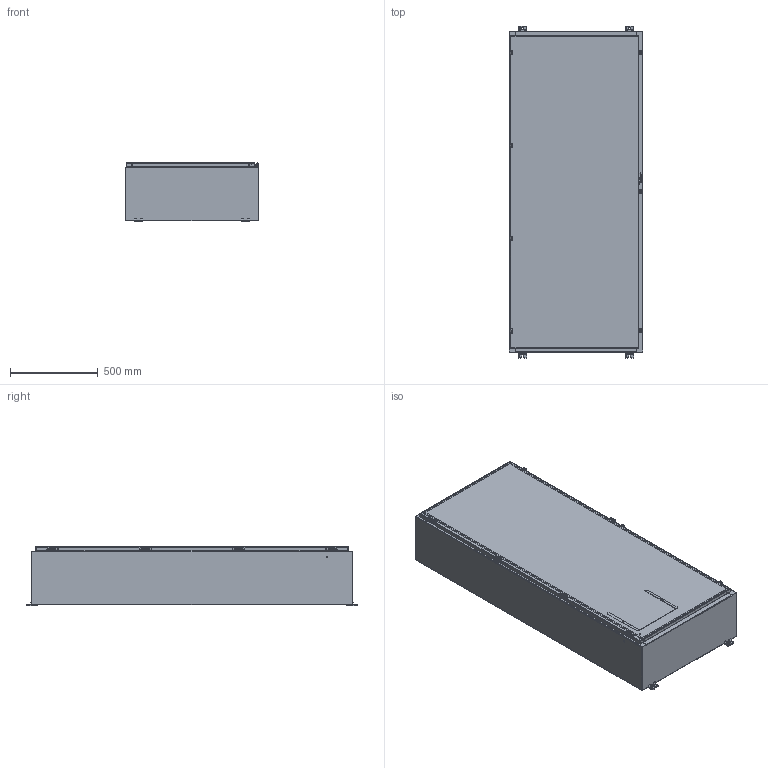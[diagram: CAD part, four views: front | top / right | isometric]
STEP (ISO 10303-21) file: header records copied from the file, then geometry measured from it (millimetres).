
FILE_DESCRIPTION((''),'2;1');
FILE_NAME('MODEL-309_ASM','2026-07-13T15:48:42',('joshi'),('SAGINAW CONTROL & ENGINEERING'),'CREO PARAMETRIC BY PTC INC, 2021284','CREO PARAMETRIC BY PTC INC, 2021284','');
FILE_SCHEMA(('AUTOMOTIVE_DESIGN { 1 0 10303 214 1 1 1 1 }'));
Length unit declared in the file: inch
Products named in the file (36): MODEL-309-BDY; MODEL-309-TP; MODEL-309-BTM; MODEL-309-DR; 100837; 100882; 111267; MODEL-309-DOOR-GASKET; 126391; 126391_ASM; 126393; 102483; 101226; 101376; 102140; 115117; MODEL-309-DOOR-ASSY_ASM; 101653; 121453; 120132_BASE; 120132_CLAMP; 120132_SCREW; 120132_SPRING; 120132_ASM; 120133; SUBPANEL; 100904; SUBPANEL-SUBASSEMBLY_ASM; 128630; 100059; 128630_ASM; 128631; 128631_ASM; 100921; 125493_ASM; MODEL-309_ASM
Assembly tree (88 placements, depth 4):
  MODEL-309_ASM
    MODEL-309-BDY
    MODEL-309-TP
    MODEL-309-BTM
    MODEL-309-DOOR-ASSY_ASM
      MODEL-309-DR
      100837  x3
      100882  x2
      111267
      MODEL-309-DOOR-GASKET
      126391_ASM  x4
        126391
      126393  x4
      102483  x13
      101226  x4
      101376  x4
      102140  x4
      115117
    100837
    101653  x6
    121453
    120132_ASM  x3
      120132_BASE
      120132_CLAMP
      120132_SCREW
      120132_SPRING
    100882  x4
    120133
    SUBPANEL-SUBASSEMBLY_ASM
      SUBPANEL
      100904  x6
    125493_ASM
      128630_ASM  x2
        128630
        100059
      128631_ASM  x2
        128631
        100059
      100921  x4
Bounding box: 762 x 1892.3 x 338.53 mm (x, y, z)
Volume: 13675488.9 mm3; surface area: 12338254.3 mm2
Topology: 92 solids, 92 shells, 6319 faces, 16296 edges, 10287 vertices
Faces by surface type: plane 2397, cylinder 1726, bspline 1173, torus 650, cone 238, sphere 135
Entity records: 119915 total; most frequent: CARTESIAN_POINT 36687, ORIENTED_EDGE 12330, DIRECTION 12023, PRESENTATION_STYLE_ASSIGNMENT 6298, STYLED_ITEM 6298, CURVE_STYLE 6165, EDGE_CURVE 6165, AXIS2_PLACEMENT_3D 4466
